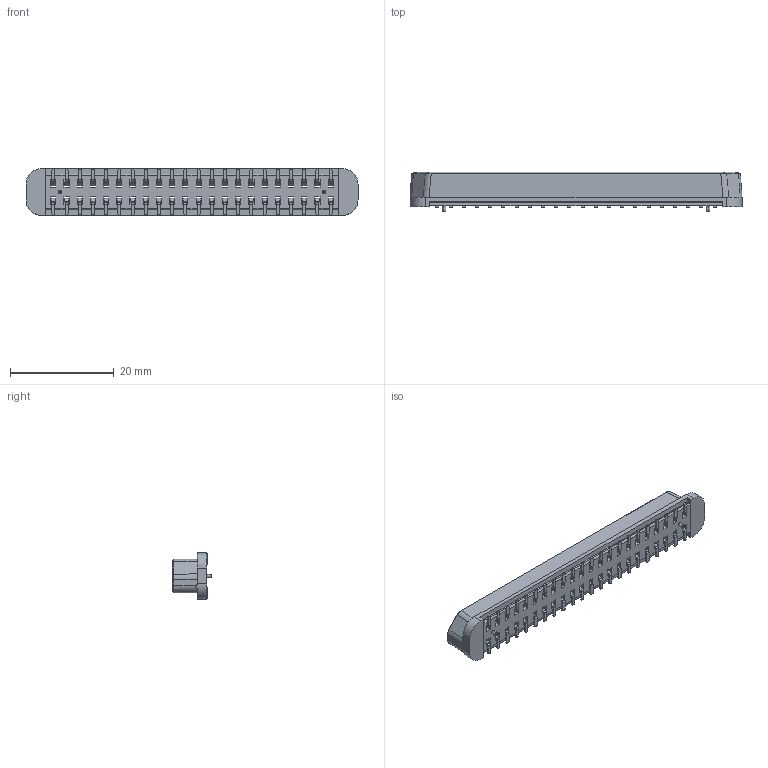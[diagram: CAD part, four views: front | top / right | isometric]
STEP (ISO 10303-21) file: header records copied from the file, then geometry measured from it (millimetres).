
FILE_DESCRIPTION (( 'STEP AP203' ), '1' );
FILE_NAME ('HC-PBB254A-1-44-F-H6.7-XX-P-04 (2.54 单槽 母座 立贴 带柱-HCTL).STEP', '2026-03-11T09:53:19', ( '' ), ( '' ), 'SwSTEP 2.0', 'SolidWorks 2025', '' );
FILE_SCHEMA (( 'CONFIG_CONTROL_DESIGN' ));
Length unit declared in the file: millimetre
Products named in the file (1): HC-PBB254A-1-44-F-H6.7-XX-P-04 (2.54 单槽 母座 立贴 带柱-HCTL)
Bounding box: 63.88 x 7.6 x 9 mm (x, y, z)
Volume: 1649.7 mm3; surface area: 3808.6 mm2
Topology: 1 solids, 1 shells, 1569 faces, 5150 edges, 3366 vertices
Faces by surface type: plane 1053, cylinder 502, bspline 6, torus 4, cone 4
Entity records: 56895 total; most frequent: CARTESIAN_POINT 10558, ORIENTED_EDGE 10300, DIRECTION 9248, EDGE_CURVE 5150, VECTOR 4112, LINE 4112, VERTEX_POINT 3366, AXIS2_PLACEMENT_3D 2568
